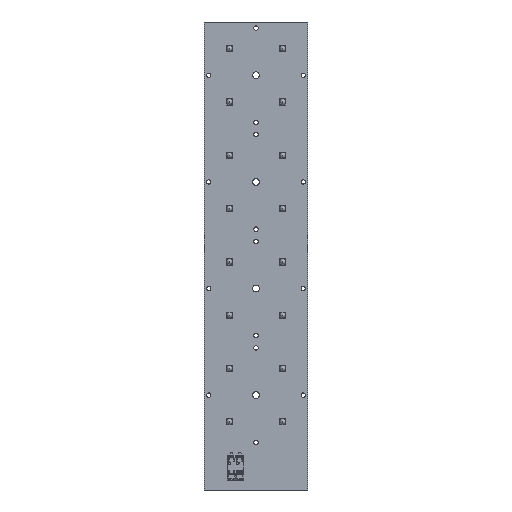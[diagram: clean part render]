
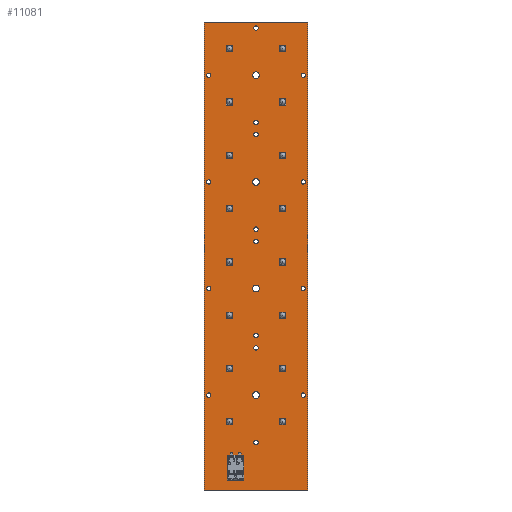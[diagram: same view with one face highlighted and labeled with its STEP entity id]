
A CAD part, front view. The second image highlights one B-rep face of the part: STEP entity #11081.
In plain terms, the highlighted planar face has unit normal (0, -1, 0).
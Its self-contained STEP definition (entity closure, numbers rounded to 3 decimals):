
#638=CIRCLE('',#11550,1.6);
#640=CIRCLE('',#11553,1.05);
#642=CIRCLE('',#11556,1.05);
#644=CIRCLE('',#11559,1.05);
#646=CIRCLE('',#11562,1.05);
#648=CIRCLE('',#11565,1.6);
#650=CIRCLE('',#11568,1.05);
#652=CIRCLE('',#11571,1.05);
#654=CIRCLE('',#11574,1.05);
#656=CIRCLE('',#11577,1.05);
#658=CIRCLE('',#11580,1.6);
#660=CIRCLE('',#11583,1.05);
#662=CIRCLE('',#11586,1.05);
#664=CIRCLE('',#11589,1.05);
#666=CIRCLE('',#11592,1.05);
#668=CIRCLE('',#11595,1.6);
#670=CIRCLE('',#11598,1.05);
#672=CIRCLE('',#11601,1.05);
#674=CIRCLE('',#11604,1.05);
#676=CIRCLE('',#11607,1.05);
#1068=ORIENTED_EDGE('',*,*,#3395,.T.);
#1069=ORIENTED_EDGE('',*,*,#3393,.T.);
#1070=ORIENTED_EDGE('',*,*,#3391,.T.);
#1071=ORIENTED_EDGE('',*,*,#3389,.T.);
#1072=ORIENTED_EDGE('',*,*,#3387,.T.);
#1073=ORIENTED_EDGE('',*,*,#3385,.T.);
#1074=ORIENTED_EDGE('',*,*,#3383,.T.);
#1075=ORIENTED_EDGE('',*,*,#3381,.T.);
#1076=ORIENTED_EDGE('',*,*,#3379,.T.);
#1077=ORIENTED_EDGE('',*,*,#3377,.T.);
#1078=ORIENTED_EDGE('',*,*,#3375,.T.);
#1079=ORIENTED_EDGE('',*,*,#3373,.T.);
#1080=ORIENTED_EDGE('',*,*,#3371,.T.);
#1081=ORIENTED_EDGE('',*,*,#3369,.T.);
#1082=ORIENTED_EDGE('',*,*,#3367,.T.);
#1083=ORIENTED_EDGE('',*,*,#3365,.T.);
#1084=ORIENTED_EDGE('',*,*,#3363,.T.);
#1085=ORIENTED_EDGE('',*,*,#3361,.T.);
#1086=ORIENTED_EDGE('',*,*,#3359,.T.);
#1087=ORIENTED_EDGE('',*,*,#3357,.T.);
#1088=ORIENTED_EDGE('',*,*,#3346,.T.);
#1089=ORIENTED_EDGE('',*,*,#3350,.T.);
#1090=ORIENTED_EDGE('',*,*,#3353,.T.);
#1091=ORIENTED_EDGE('',*,*,#3396,.T.);
#3346=EDGE_CURVE('',#4525,#4526,#5277,.T.);
#3350=EDGE_CURVE('',#4526,#4529,#5281,.T.);
#3353=EDGE_CURVE('',#4529,#4531,#5284,.T.);
#3357=EDGE_CURVE('',#4534,#4534,#638,.T.);
#3359=EDGE_CURVE('',#4536,#4536,#640,.T.);
#3361=EDGE_CURVE('',#4538,#4538,#642,.T.);
#3363=EDGE_CURVE('',#4540,#4540,#644,.T.);
#3365=EDGE_CURVE('',#4542,#4542,#646,.T.);
#3367=EDGE_CURVE('',#4544,#4544,#648,.T.);
#3369=EDGE_CURVE('',#4546,#4546,#650,.T.);
#3371=EDGE_CURVE('',#4548,#4548,#652,.T.);
#3373=EDGE_CURVE('',#4550,#4550,#654,.T.);
#3375=EDGE_CURVE('',#4552,#4552,#656,.T.);
#3377=EDGE_CURVE('',#4554,#4554,#658,.T.);
#3379=EDGE_CURVE('',#4556,#4556,#660,.T.);
#3381=EDGE_CURVE('',#4558,#4558,#662,.T.);
#3383=EDGE_CURVE('',#4560,#4560,#664,.T.);
#3385=EDGE_CURVE('',#4562,#4562,#666,.T.);
#3387=EDGE_CURVE('',#4564,#4564,#668,.T.);
#3389=EDGE_CURVE('',#4566,#4566,#670,.T.);
#3391=EDGE_CURVE('',#4568,#4568,#672,.T.);
#3393=EDGE_CURVE('',#4570,#4570,#674,.T.);
#3395=EDGE_CURVE('',#4572,#4572,#676,.T.);
#3396=EDGE_CURVE('',#4531,#4525,#5287,.T.);
#4525=VERTEX_POINT('',#14163);
#4526=VERTEX_POINT('',#14164);
#4529=VERTEX_POINT('',#14172);
#4531=VERTEX_POINT('',#14178);
#4534=VERTEX_POINT('',#14186);
#4536=VERTEX_POINT('',#14191);
#4538=VERTEX_POINT('',#14196);
#4540=VERTEX_POINT('',#14201);
#4542=VERTEX_POINT('',#14206);
#4544=VERTEX_POINT('',#14211);
#4546=VERTEX_POINT('',#14216);
#4548=VERTEX_POINT('',#14221);
#4550=VERTEX_POINT('',#14226);
#4552=VERTEX_POINT('',#14231);
#4554=VERTEX_POINT('',#14236);
#4556=VERTEX_POINT('',#14241);
#4558=VERTEX_POINT('',#14246);
#4560=VERTEX_POINT('',#14251);
#4562=VERTEX_POINT('',#14256);
#4564=VERTEX_POINT('',#14261);
#4566=VERTEX_POINT('',#14266);
#4568=VERTEX_POINT('',#14271);
#4570=VERTEX_POINT('',#14276);
#4572=VERTEX_POINT('',#14281);
#5277=LINE('',#14162,#5853);
#5281=LINE('',#14171,#5857);
#5284=LINE('',#14177,#5860);
#5287=LINE('',#14283,#5863);
#5853=VECTOR('',#12228,1000.);
#5857=VECTOR('',#12234,1000.);
#5860=VECTOR('',#12239,1000.);
#5863=VECTOR('',#12364,1000.);
#6494=EDGE_LOOP('',(#1068));
#6495=EDGE_LOOP('',(#1069));
#6496=EDGE_LOOP('',(#1070));
#6497=EDGE_LOOP('',(#1071));
#6498=EDGE_LOOP('',(#1072));
#6499=EDGE_LOOP('',(#1073));
#6500=EDGE_LOOP('',(#1074));
#6501=EDGE_LOOP('',(#1075));
#6502=EDGE_LOOP('',(#1076));
#6503=EDGE_LOOP('',(#1077));
#6504=EDGE_LOOP('',(#1078));
#6505=EDGE_LOOP('',(#1079));
#6506=EDGE_LOOP('',(#1080));
#6507=EDGE_LOOP('',(#1081));
#6508=EDGE_LOOP('',(#1082));
#6509=EDGE_LOOP('',(#1083));
#6510=EDGE_LOOP('',(#1084));
#6511=EDGE_LOOP('',(#1085));
#6512=EDGE_LOOP('',(#1086));
#6513=EDGE_LOOP('',(#1087));
#6514=EDGE_LOOP('',(#1088,#1089,#1090,#1091));
#7048=FACE_BOUND('',#6494,.T.);
#7049=FACE_BOUND('',#6495,.T.);
#7050=FACE_BOUND('',#6496,.T.);
#7051=FACE_BOUND('',#6497,.T.);
#7052=FACE_BOUND('',#6498,.T.);
#7053=FACE_BOUND('',#6499,.T.);
#7054=FACE_BOUND('',#6500,.T.);
#7055=FACE_BOUND('',#6501,.T.);
#7056=FACE_BOUND('',#6502,.T.);
#7057=FACE_BOUND('',#6503,.T.);
#7058=FACE_BOUND('',#6504,.T.);
#7059=FACE_BOUND('',#6505,.T.);
#7060=FACE_BOUND('',#6506,.T.);
#7061=FACE_BOUND('',#6507,.T.);
#7062=FACE_BOUND('',#6508,.T.);
#7063=FACE_BOUND('',#6509,.T.);
#7064=FACE_BOUND('',#6510,.T.);
#7065=FACE_BOUND('',#6511,.T.);
#7066=FACE_BOUND('',#6512,.T.);
#7067=FACE_BOUND('',#6513,.T.);
#7068=FACE_BOUND('',#6514,.T.);
#7543=PLANE('',#11610);
#11081=ADVANCED_FACE('',(#7048,#7049,#7050,#7051,#7052,#7053,#7054,#7055,
#7056,#7057,#7058,#7059,#7060,#7061,#7062,#7063,#7064,#7065,#7066,#7067,
#7068),#7543,.T.);
#11550=AXIS2_PLACEMENT_3D('',#14185,#12246,#12247);
#11553=AXIS2_PLACEMENT_3D('',#14190,#12252,#12253);
#11556=AXIS2_PLACEMENT_3D('',#14195,#12258,#12259);
#11559=AXIS2_PLACEMENT_3D('',#14200,#12264,#12265);
#11562=AXIS2_PLACEMENT_3D('',#14205,#12270,#12271);
#11565=AXIS2_PLACEMENT_3D('',#14210,#12276,#12277);
#11568=AXIS2_PLACEMENT_3D('',#14215,#12282,#12283);
#11571=AXIS2_PLACEMENT_3D('',#14220,#12288,#12289);
#11574=AXIS2_PLACEMENT_3D('',#14225,#12294,#12295);
#11577=AXIS2_PLACEMENT_3D('',#14230,#12300,#12301);
#11580=AXIS2_PLACEMENT_3D('',#14235,#12306,#12307);
#11583=AXIS2_PLACEMENT_3D('',#14240,#12312,#12313);
#11586=AXIS2_PLACEMENT_3D('',#14245,#12318,#12319);
#11589=AXIS2_PLACEMENT_3D('',#14250,#12324,#12325);
#11592=AXIS2_PLACEMENT_3D('',#14255,#12330,#12331);
#11595=AXIS2_PLACEMENT_3D('',#14260,#12336,#12337);
#11598=AXIS2_PLACEMENT_3D('',#14265,#12342,#12343);
#11601=AXIS2_PLACEMENT_3D('',#14270,#12348,#12349);
#11604=AXIS2_PLACEMENT_3D('',#14275,#12354,#12355);
#11607=AXIS2_PLACEMENT_3D('',#14280,#12360,#12361);
#11610=AXIS2_PLACEMENT_3D('',#14286,#12368,#12369);
#12228=DIRECTION('',(-1.,0.,0.));
#12234=DIRECTION('',(0.,0.,-1.));
#12239=DIRECTION('',(1.,0.,0.));
#12246=DIRECTION('',(0.,1.,0.));
#12247=DIRECTION('',(1.,0.,0.));
#12252=DIRECTION('',(0.,1.,0.));
#12253=DIRECTION('',(1.,0.,0.));
#12258=DIRECTION('',(0.,1.,0.));
#12259=DIRECTION('',(1.,0.,0.));
#12264=DIRECTION('',(0.,1.,0.));
#12265=DIRECTION('',(1.,0.,0.));
#12270=DIRECTION('',(0.,1.,0.));
#12271=DIRECTION('',(1.,0.,0.));
#12276=DIRECTION('',(0.,1.,0.));
#12277=DIRECTION('',(1.,0.,0.));
#12282=DIRECTION('',(0.,1.,0.));
#12283=DIRECTION('',(1.,0.,0.));
#12288=DIRECTION('',(0.,1.,0.));
#12289=DIRECTION('',(1.,0.,0.));
#12294=DIRECTION('',(0.,1.,0.));
#12295=DIRECTION('',(1.,0.,0.));
#12300=DIRECTION('',(0.,1.,0.));
#12301=DIRECTION('',(1.,0.,0.));
#12306=DIRECTION('',(0.,1.,0.));
#12307=DIRECTION('',(1.,0.,0.));
#12312=DIRECTION('',(0.,1.,0.));
#12313=DIRECTION('',(1.,0.,0.));
#12318=DIRECTION('',(0.,1.,0.));
#12319=DIRECTION('',(1.,0.,0.));
#12324=DIRECTION('',(0.,1.,0.));
#12325=DIRECTION('',(1.,0.,0.));
#12330=DIRECTION('',(0.,1.,0.));
#12331=DIRECTION('',(1.,0.,0.));
#12336=DIRECTION('',(0.,1.,0.));
#12337=DIRECTION('',(1.,0.,0.));
#12342=DIRECTION('',(0.,1.,0.));
#12343=DIRECTION('',(1.,0.,0.));
#12348=DIRECTION('',(0.,1.,0.));
#12349=DIRECTION('',(1.,0.,0.));
#12354=DIRECTION('',(0.,1.,0.));
#12355=DIRECTION('',(1.,0.,0.));
#12360=DIRECTION('',(0.,1.,0.));
#12361=DIRECTION('',(1.,0.,0.));
#12364=DIRECTION('',(0.,0.,1.));
#12368=DIRECTION('',(0.,-1.,0.));
#12369=DIRECTION('',(0.,0.,-1.));
#14162=CARTESIAN_POINT('',(-24.75,0.,111.5));
#14163=CARTESIAN_POINT('',(24.75,0.,111.5));
#14164=CARTESIAN_POINT('',(-24.75,0.,111.5));
#14171=CARTESIAN_POINT('',(-24.75,0.,111.5));
#14172=CARTESIAN_POINT('',(-24.75,0.,-111.5));
#14177=CARTESIAN_POINT('',(-24.75,0.,-111.5));
#14178=CARTESIAN_POINT('',(24.75,0.,-111.5));
#14185=CARTESIAN_POINT('',(0.,0.,86.1));
#14186=CARTESIAN_POINT('',(1.6,0.,86.1));
#14190=CARTESIAN_POINT('',(22.5,0.,86.1));
#14191=CARTESIAN_POINT('',(23.55,0.,86.1));
#14195=CARTESIAN_POINT('',(-22.5,0.,86.1));
#14196=CARTESIAN_POINT('',(-21.45,0.,86.1));
#14200=CARTESIAN_POINT('',(0.,0.,63.6));
#14201=CARTESIAN_POINT('',(1.05,0.,63.6));
#14205=CARTESIAN_POINT('',(0.,0.,108.6));
#14206=CARTESIAN_POINT('',(1.05,0.,108.6));
#14210=CARTESIAN_POINT('',(0.,0.,35.3));
#14211=CARTESIAN_POINT('',(1.6,0.,35.3));
#14215=CARTESIAN_POINT('',(22.5,0.,35.3));
#14216=CARTESIAN_POINT('',(23.55,0.,35.3));
#14220=CARTESIAN_POINT('',(-22.5,0.,35.3));
#14221=CARTESIAN_POINT('',(-21.45,0.,35.3));
#14225=CARTESIAN_POINT('',(0.,0.,12.8));
#14226=CARTESIAN_POINT('',(1.05,0.,12.8));
#14230=CARTESIAN_POINT('',(0.,0.,57.8));
#14231=CARTESIAN_POINT('',(1.05,0.,57.8));
#14235=CARTESIAN_POINT('',(0.,0.,-15.5));
#14236=CARTESIAN_POINT('',(1.6,0.,-15.5));
#14240=CARTESIAN_POINT('',(22.5,0.,-15.5));
#14241=CARTESIAN_POINT('',(23.55,0.,-15.5));
#14245=CARTESIAN_POINT('',(-22.5,0.,-15.5));
#14246=CARTESIAN_POINT('',(-21.45,0.,-15.5));
#14250=CARTESIAN_POINT('',(0.,0.,-38.));
#14251=CARTESIAN_POINT('',(1.05,0.,-38.));
#14255=CARTESIAN_POINT('',(0.,0.,7.));
#14256=CARTESIAN_POINT('',(1.05,0.,7.));
#14260=CARTESIAN_POINT('',(0.,0.,-66.3));
#14261=CARTESIAN_POINT('',(1.6,0.,-66.3));
#14265=CARTESIAN_POINT('',(22.5,0.,-66.3));
#14266=CARTESIAN_POINT('',(23.55,0.,-66.3));
#14270=CARTESIAN_POINT('',(-22.5,0.,-66.3));
#14271=CARTESIAN_POINT('',(-21.45,0.,-66.3));
#14275=CARTESIAN_POINT('',(0.,0.,-88.8));
#14276=CARTESIAN_POINT('',(1.05,0.,-88.8));
#14280=CARTESIAN_POINT('',(0.,0.,-43.8));
#14281=CARTESIAN_POINT('',(1.05,0.,-43.8));
#14283=CARTESIAN_POINT('',(24.75,0.,-111.5));
#14286=CARTESIAN_POINT('',(0.,0.,0.));
